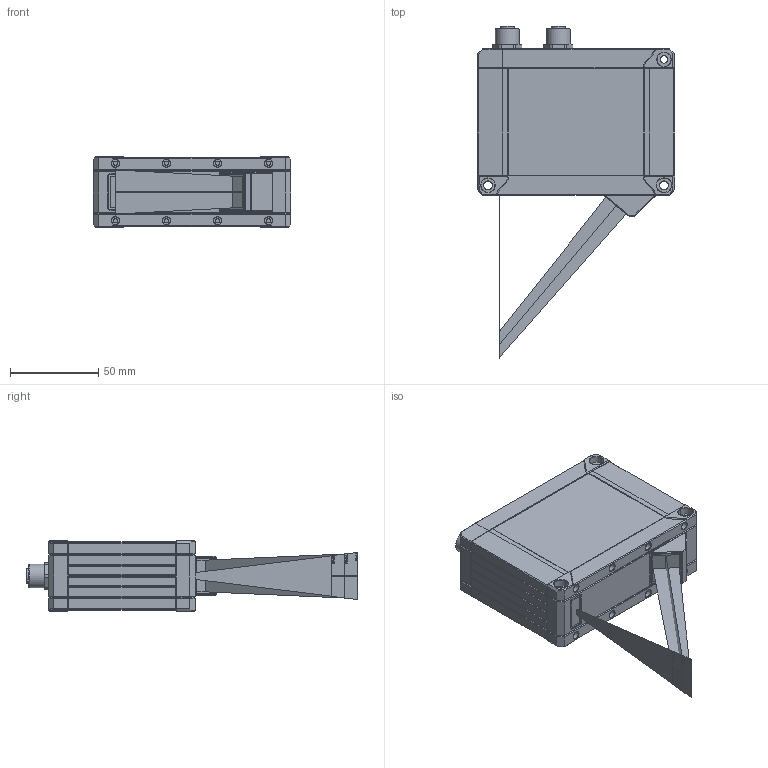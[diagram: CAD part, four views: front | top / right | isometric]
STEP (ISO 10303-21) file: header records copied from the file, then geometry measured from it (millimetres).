
FILE_DESCRIPTION (( 'STEP AP214' ), '1' );
FILE_NAME ('LLT30xx MB25 Blau AA.STEP', '2021-01-26T15:04:23', ( '' ), ( '' ), 'SwSTEP 2.0', 'SolidWorks 2020', '' );
FILE_SCHEMA (( 'AUTOMOTIVE_DESIGN' ));
Length unit declared in the file: millimetre
Products named in the file (1): LLT30xx MB25 Blau AA
Bounding box: 112 x 188.5 x 40 mm (x, y, z)
Volume: 360118.2 mm3; surface area: 54985.9 mm2
Topology: 23 solids, 26 shells, 1194 faces, 2970 edges, 1918 vertices
Faces by surface type: plane 713, cylinder 199, bspline 186, cone 84, torus 12
Full cylindrical faces by diameter (mm): 0.7 x12, 1 x8, 1.5 x8, 1.55 x1, 2.4 x19, 3 x3, 4.2 x1, 4.4 x16, 5 x2, 8 x4, 9.4 x3, 9.5 x1, 9.6 x4, 10.7 x2, 10.75 x2, 11 x12, 13.5 x2
Entity records: 60803 total; most frequent: CARTESIAN_POINT 21750, ORIENTED_EDGE 5532, DIRECTION 4616, EDGE_CURVE 2766, VERTEX_POINT 1873, LINE 1774, VECTOR 1774, EDGE_LOOP 1475
